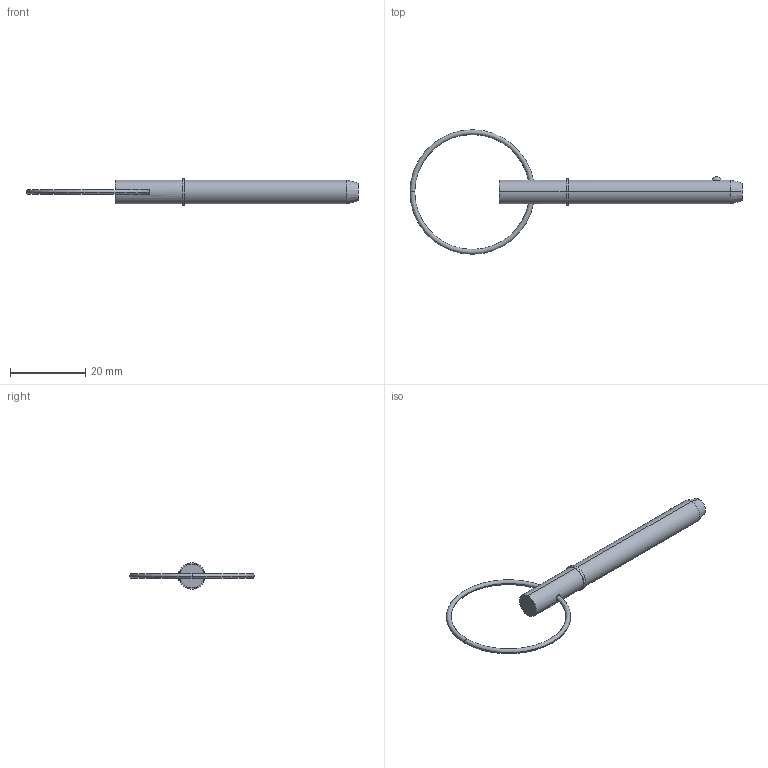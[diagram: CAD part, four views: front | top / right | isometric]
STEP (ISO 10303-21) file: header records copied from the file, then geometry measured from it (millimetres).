
FILE_DESCRIPTION (( 'STEP AP203' ), '1' );
FILE_NAME ('33016.W2515.step', '2024-11-07T11:02:23', ( '' ), ( '' ), 'SwSTEP 2.0', 'SolidWorks 2019', '' );
FILE_SCHEMA (( 'CONFIG_CONTROL_DESIGN' ));
Length unit declared in the file: millimetre
Products named in the file (3): Part1_33016.W2515; Part2_33016.W2515; 33016.W2515
Assembly tree (2 placements, depth 2):
  33016.W2515
    Part1_33016.W2515
    Part2_33016.W2515
Bounding box: 88.04 x 33.02 x 6.99 mm (x, y, z)
Volume: 2135.8 mm3; surface area: 1770 mm2
Topology: 2 solids, 2 shells, 22 faces, 43 edges, 26 vertices
Faces by surface type: torus 8, cylinder 6, plane 4, sphere 2, cone 2
Entity records: 971 total; most frequent: CARTESIAN_POINT 194, DIRECTION 120, ORIENTED_EDGE 86, AXIS2_PLACEMENT_3D 56, EDGE_CURVE 43, CIRCLE 29, EDGE_LOOP 27, PERSON_AND_ORGANIZATION 26
